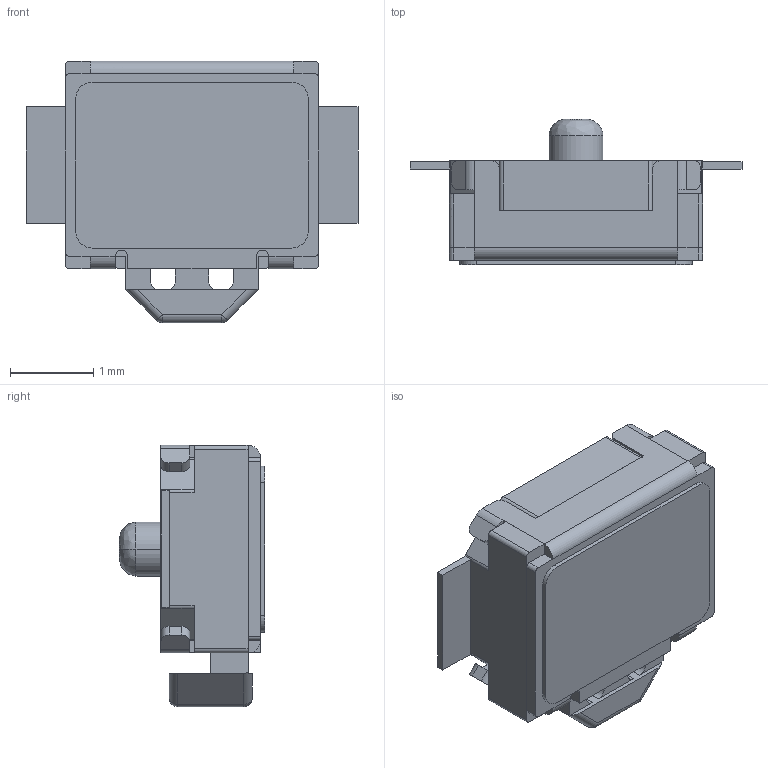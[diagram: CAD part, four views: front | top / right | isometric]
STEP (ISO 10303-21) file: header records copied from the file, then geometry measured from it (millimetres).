
FILE_DESCRIPTION((''),'2;1');
FILE_NAME('JQD3025-B-DEG-1_ASM','2026-05-18T15:27:00',('Admin'),(''),'CREO PARAMETRIC BY PTC INC, 2019224','CREO PARAMETRIC BY PTC INC, 2019224','');
FILE_SCHEMA(('AUTOMOTIVE_DESIGN { 1 0 10303 214 1 1 1 1 }'));
Length unit declared in the file: millimetre
Products named in the file (5): JQD3025-B-DEG-1_01; JQD3025-B-DEG-1_02; JQD3025-B-DEG-1_03; JQD3025-B-DEG-1_04; JQD3025-B-DEG-1_ASM
Assembly tree (4 placements, depth 2):
  JQD3025-B-DEG-1_ASM
    JQD3025-B-DEG-1_01
    JQD3025-B-DEG-1_02
    JQD3025-B-DEG-1_03
    JQD3025-B-DEG-1_04
Bounding box: 4 x 1.75 x 3.15 mm (x, y, z)
Volume: 8 mm3; surface area: 90.2 mm2
Topology: 4 solids, 5 shells, 271 faces, 693 edges, 432 vertices
Faces by surface type: plane 170, cylinder 89, sphere 8, bspline 4
Entity records: 9931 total; most frequent: CARTESIAN_POINT 1582, DIRECTION 1425, ORIENTED_EDGE 1374, EDGE_CURVE 687, VECTOR 497, LINE 497, AXIS2_PLACEMENT_3D 464, VERTEX_POINT 428
